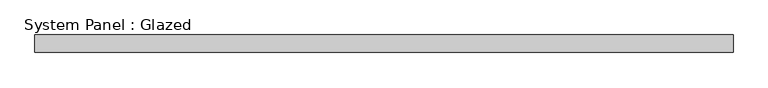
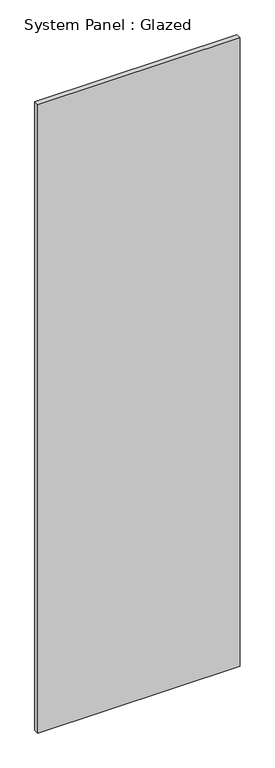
"""IFC4 building model written with IfcOpenShell, lengths in millimetres: plate geometry, System Panel : Glazed."""

from ifc_helpers import new_model, si_unit, origin, origin_with_axes, place, context, project, spatial, polyline, outline, extrude, source, transform, mapped, element, save


def system_panel_glazed_2a0647fb(model_context):
    return source(origin(), model_context, "Body", "SweptSolid", [
        extrude(outline(polyline([(502.5306534, 24.5), (-502.5306534, 24.5), (-502.5306534, 49.5), (502.5306534, 49.5), (502.5306534, 24.5)])), origin_with_axes(), (0.0, 0.0, 1.0), 3300.0),
    ])


if __name__ == "__main__":
    model = new_model("IFC4")
    model_context = context("Model", 3, world=origin())
    ifc_project = project(units=[si_unit("LENGTHUNIT", "METRE", prefix="MILLI")], contexts=[model_context])
    site = spatial("IfcSite", under=ifc_project)
    building = spatial("IfcBuilding", under=site)
    placement = place(None, origin())
    system_panel_glazed_shape = system_panel_glazed_2a0647fb(model_context)
    element("IfcPlate", 1, ObjectType="System Panel : Glazed", at=placement, inside=building, context=model_context, shape_type="MappedRepresentation", body=[
        mapped(system_panel_glazed_shape, transform((0.0, 0.0, 0.0), x_axis=(1.0, 0.0, 0.0), y_axis=(0.0, 1.0, 0.0), z_axis=(0.0, 0.0, 1.0))),
    ])
    save(model, "model.ifc")
